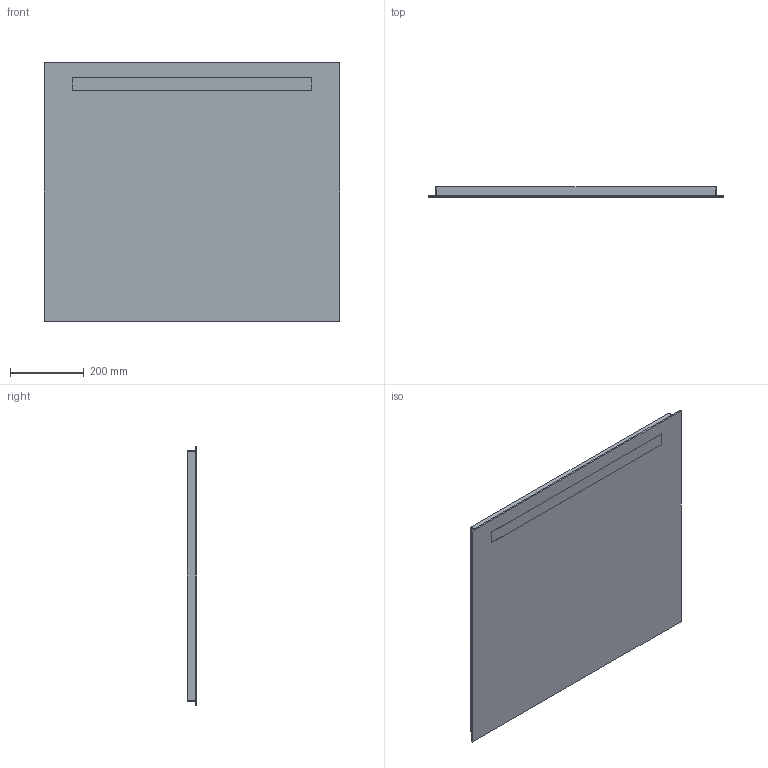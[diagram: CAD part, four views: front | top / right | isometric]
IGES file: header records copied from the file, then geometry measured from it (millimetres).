
Global section: file name: 502807; native system: Autodesk Inventor 2021; preprocessor: unknown; author: JANAN; date: 20221202.151126; units: millimetre
Bounding box: 800 x 26 x 700 mm (x, y, z)
Volume: 13605143.9 mm3; surface area: 2229973.9 mm2
Topology: 2 solids, 2 shells, 29 faces, 68 edges, 48 vertices
Faces by surface type: bspline 29
